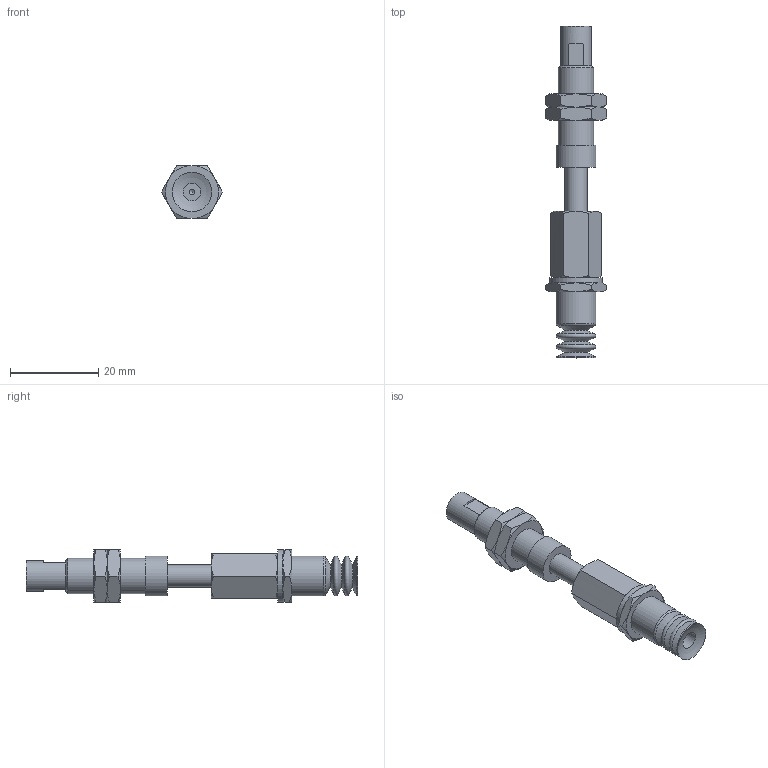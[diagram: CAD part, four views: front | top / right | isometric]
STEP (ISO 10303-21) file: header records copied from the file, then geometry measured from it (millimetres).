
FILE_DESCRIPTION(('STEP AP203'),'1');
FILE_NAME('.stp','2025-08-27T02:09:57',(' '),(' '),'Spatial InterOp 3D',' ',' ');
FILE_SCHEMA(('CONFIG_CONTROL_DESIGN'));
Length unit declared in the file: millimetre
Products named in the file (7): BNABPCTS-10-10-※; ADAPTER; NAPCTS-10-10-MBODY; Adapter_napc-10-T; Nut napc_s-10-10; NAPCTS-10-10-FBODY; BPCG-10-※
Assembly tree (7 placements, depth 2):
  BNABPCTS-10-10-※
    ADAPTER
    NAPCTS-10-10-MBODY
    Adapter_napc-10-T
    Nut napc_s-10-10  x2
    NAPCTS-10-10-FBODY
    BPCG-10-※
Bounding box: 13.86 x 75.2 x 12 mm (x, y, z)
Volume: 4461.4 mm3; surface area: 4822.7 mm2
Topology: 7 solids, 7 shells, 142 faces, 287 edges, 166 vertices
Faces by surface type: cone 64, plane 49, cylinder 19, torus 8, sphere 2
Full cylindrical faces by diameter (mm): 1.25 x1, 4 x1, 4.134 x2, 5 x7, 7 x1, 7.188 x2, 8 x1, 9 x3, 12 x1
Entity records: 3568 total; most frequent: CARTESIAN_POINT 996, DIRECTION 470, ORIENTED_EDGE 386, AXIS2_PLACEMENT_3D 222, EDGE_CURVE 193, EDGE_LOOP 176, FACE_OUTER_BOUND 147, VERTEX_POINT 136
